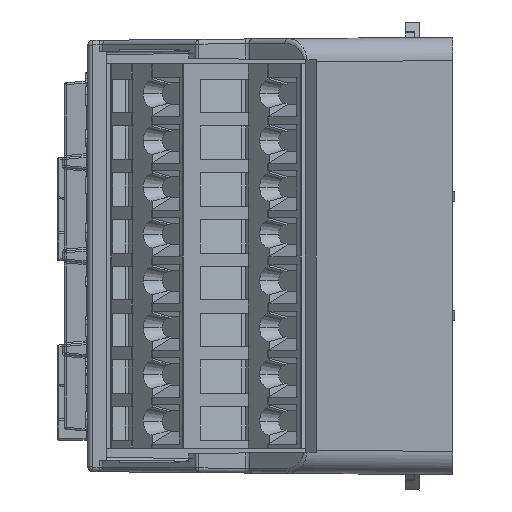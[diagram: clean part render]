
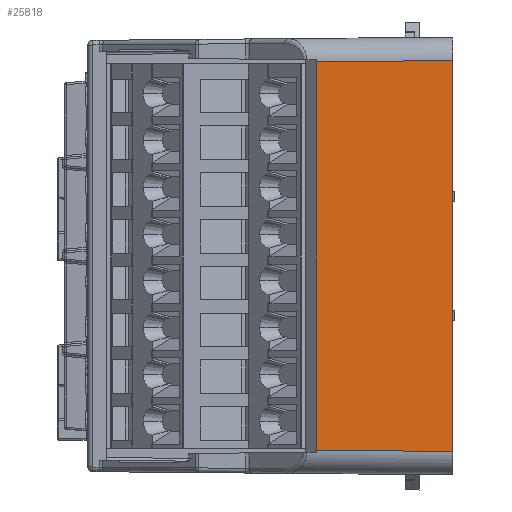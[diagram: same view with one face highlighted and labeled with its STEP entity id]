
A CAD part, left-side view. The second image highlights one B-rep face of the part: STEP entity #25818.
In plain terms, the highlighted planar face has unit normal (-1, 0.009, 0).
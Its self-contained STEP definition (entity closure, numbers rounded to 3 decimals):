
#4176 = DIRECTION ( 'NONE',  ( 0., 0., -1. ) ) ;
#6220 = EDGE_CURVE ( 'NONE', #30477, #102934, #64643, .T. ) ;
#20942 = CARTESIAN_POINT ( 'NONE',  ( -50.44, -10., 20.89 ) ) ;
#24963 = LINE ( 'NONE', #109188, #142387 ) ;
#25818 = ADVANCED_FACE ( 'NONE', ( #94100 ), #99736, .T. ) ;
#30477 = VERTEX_POINT ( 'NONE', #155902 ) ;
#30510 = CARTESIAN_POINT ( 'NONE',  ( -50.44, -10., -20.89 ) ) ;
#32821 = DIRECTION ( 'NONE',  ( 0.009, 1., 0.009 ) ) ;
#42606 = ORIENTED_EDGE ( 'NONE', *, *, #117324, .F. ) ;
#48225 = ORIENTED_EDGE ( 'NONE', *, *, #136574, .F. ) ;
#49992 = DIRECTION ( 'NONE',  ( -0.009, -1., 0.009 ) ) ;
#54857 = DIRECTION ( 'NONE',  ( -0.009, -1., 0. ) ) ;
#64643 = LINE ( 'NONE', #188510, #100575 ) ;
#73843 = LINE ( 'NONE', #194296, #150643 ) ;
#80981 = EDGE_LOOP ( 'NONE', ( #48225, #99151, #168412, #42606 ) ) ;
#82621 = LINE ( 'NONE', #157218, #164261 ) ;
#94100 = FACE_OUTER_BOUND ( 'NONE', #80981, .T. ) ;
#99151 = ORIENTED_EDGE ( 'NONE', *, *, #114634, .F. ) ;
#99736 = PLANE ( 'NONE',  #124499 ) ;
#100575 = VECTOR ( 'NONE', #4176, 1000. ) ;
#102934 = VERTEX_POINT ( 'NONE', #149931 ) ;
#109188 = CARTESIAN_POINT ( 'NONE',  ( -50.098, 29.179, -20.549 ) ) ;
#114634 = EDGE_CURVE ( 'NONE', #30477, #177718, #82621, .T. ) ;
#115166 = CARTESIAN_POINT ( 'NONE',  ( -50.1, 29., 0. ) ) ;
#117324 = EDGE_CURVE ( 'NONE', #160318, #102934, #24963, .T. ) ;
#124499 = AXIS2_PLACEMENT_3D ( 'NONE', #115166, #146643, #54857 ) ;
#136574 = EDGE_CURVE ( 'NONE', #177718, #160318, #73843, .T. ) ;
#142387 = VECTOR ( 'NONE', #32821, 1000. ) ;
#146643 = DIRECTION ( 'NONE',  ( -1., 0.009, 0. ) ) ;
#149931 = CARTESIAN_POINT ( 'NONE',  ( -50.313, 4.569, -20.763 ) ) ;
#150643 = VECTOR ( 'NONE', #180195, 1000. ) ;
#155902 = CARTESIAN_POINT ( 'NONE',  ( -50.313, 4.569, 20.763 ) ) ;
#157218 = CARTESIAN_POINT ( 'NONE',  ( -50.096, 29.415, 20.546 ) ) ;
#160318 = VERTEX_POINT ( 'NONE', #30510 ) ;
#164261 = VECTOR ( 'NONE', #49992, 1000. ) ;
#168412 = ORIENTED_EDGE ( 'NONE', *, *, #6220, .T. ) ;
#177718 = VERTEX_POINT ( 'NONE', #20942 ) ;
#180195 = DIRECTION ( 'NONE',  ( 0., 0., -1. ) ) ;
#188510 = CARTESIAN_POINT ( 'NONE',  ( -50.313, 4.569, 0. ) ) ;
#194296 = CARTESIAN_POINT ( 'NONE',  ( -50.44, -10., 0. ) ) ;
